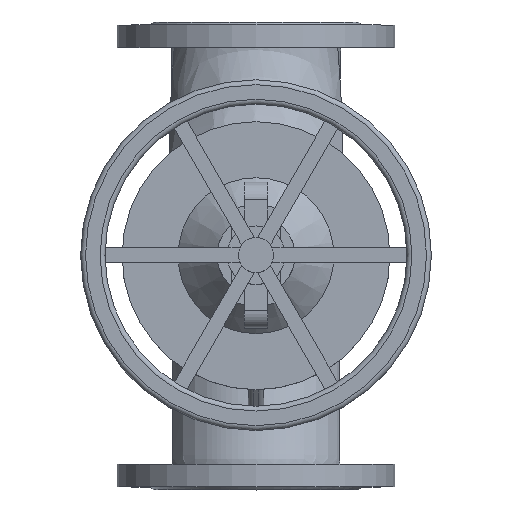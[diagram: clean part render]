
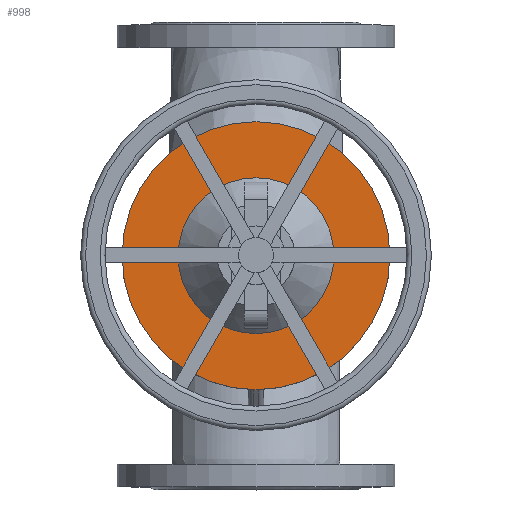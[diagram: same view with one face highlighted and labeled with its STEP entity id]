
A CAD part, top view. The second image highlights one B-rep face of the part: STEP entity #998.
In plain terms, the highlighted planar face has unit normal (0, 0, 1).
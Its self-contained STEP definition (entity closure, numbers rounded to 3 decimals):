
#998=ADVANCED_FACE('',(#8674,#8676),#8678,.T.);
#8674=FACE_BOUND('',#8675,.T.);
#8675=EDGE_LOOP('',(#14408));
#8676=FACE_BOUND('',#8677,.T.);
#8677=EDGE_LOOP('',(#14409));
#8678=PLANE('',#8679);
#8679=AXIS2_PLACEMENT_3D('',#8680,#8681,#8682);
#8680=CARTESIAN_POINT('',(0.,0.,187.));
#8681=DIRECTION('',(0.,0.,1.));
#8682=DIRECTION('',(0.,1.,0.));
#14408=ORIENTED_EDGE('',*,*,#15282,.F.);
#14409=ORIENTED_EDGE('',*,*,#15290,.T.);
#15282=EDGE_CURVE('',#16057,#16057,#16058,.T.);
#15290=EDGE_CURVE('',#16073,#16073,#16074,.T.);
#16057=VERTEX_POINT('',#20742);
#16058=CIRCLE('',#20743,137.5);
#16073=VERTEX_POINT('',#20782);
#16074=CIRCLE('',#20783,80.);
#20742=CARTESIAN_POINT('',(0.,137.5,187.));
#20743=AXIS2_PLACEMENT_3D('',#20744,#20745,#20746);
#20744=CARTESIAN_POINT('',(0.,0.,187.));
#20745=DIRECTION('',(0.,0.,-1.));
#20746=DIRECTION('',(0.,1.,0.));
#20782=CARTESIAN_POINT('',(0.,80.,187.));
#20783=AXIS2_PLACEMENT_3D('',#20784,#20785,#20786);
#20784=CARTESIAN_POINT('',(0.,0.,187.));
#20785=DIRECTION('',(0.,0.,-1.));
#20786=DIRECTION('',(0.,1.,0.));
